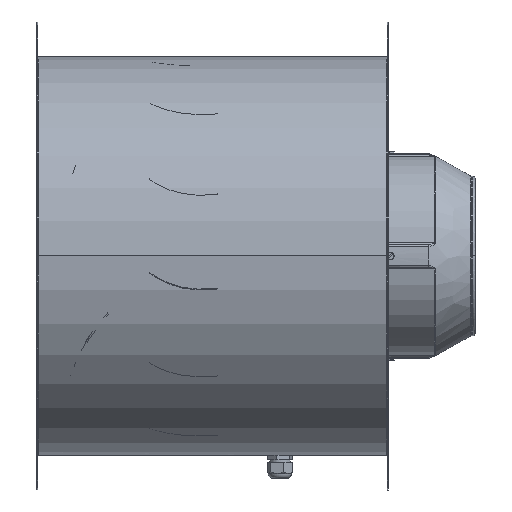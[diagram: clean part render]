
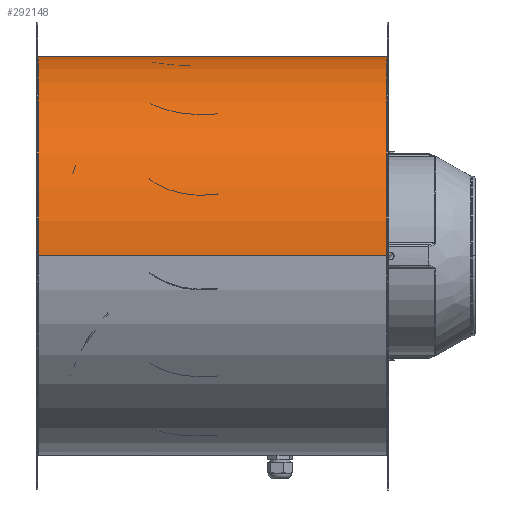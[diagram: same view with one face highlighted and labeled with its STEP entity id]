
A CAD part, top view. The second image highlights one B-rep face of the part: STEP entity #292148.
In plain terms, the highlighted cylindrical face has radius 251.25 mm (diameter 502.5 mm), a partial arc.
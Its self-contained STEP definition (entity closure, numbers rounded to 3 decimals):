
#2983 = CARTESIAN_POINT ( 'NONE',  ( 313., 0., 0. ) ) ;
#4370 = CARTESIAN_POINT ( 'NONE',  ( -125., 0., -251.25 ) ) ;
#15193 = VERTEX_POINT ( 'NONE', #224551 ) ;
#15274 = CIRCLE ( 'NONE', #168122, 251.25 ) ;
#18193 = DIRECTION ( 'NONE',  ( 1., 0., 0. ) ) ;
#23768 = LINE ( 'NONE', #72699, #100635 ) ;
#28591 = CARTESIAN_POINT ( 'NONE',  ( 313.625, 0., 0. ) ) ;
#32018 = DIRECTION ( 'NONE',  ( 0., 0., 1. ) ) ;
#34425 = ORIENTED_EDGE ( 'NONE', *, *, #297656, .F. ) ;
#34844 = CARTESIAN_POINT ( 'NONE',  ( -125., 0., 0. ) ) ;
#39453 = DIRECTION ( 'NONE',  ( 1., 0., 0. ) ) ;
#48248 = CARTESIAN_POINT ( 'NONE',  ( 313., 3., -251.232 ) ) ;
#56445 = EDGE_LOOP ( 'NONE', ( #34425, #291640, #129427, #354582, #327930, #126496, #356472, #278001, #234872, #246303 ) ) ;
#57646 = DIRECTION ( 'NONE',  ( 0., 0., 1. ) ) ;
#63897 = DIRECTION ( 'NONE',  ( 0., 0., 1. ) ) ;
#72699 = CARTESIAN_POINT ( 'NONE',  ( -125., 3.015, -251.232 ) ) ;
#84003 = FACE_OUTER_BOUND ( 'NONE', #56445, .T. ) ;
#85231 = CIRCLE ( 'NONE', #363681, 251.25 ) ;
#93902 = CIRCLE ( 'NONE', #280499, 251.25 ) ;
#94491 = CARTESIAN_POINT ( 'NONE',  ( 313., 3.015, -251.232 ) ) ;
#100635 = VECTOR ( 'NONE', #274939, 1000. ) ;
#114557 = DIRECTION ( 'NONE',  ( 1., 0., 0. ) ) ;
#118271 = EDGE_CURVE ( 'NONE', #344998, #123959, #246569, .T. ) ;
#119023 = CIRCLE ( 'NONE', #340377, 251.25 ) ;
#123959 = VERTEX_POINT ( 'NONE', #48248 ) ;
#126496 = ORIENTED_EDGE ( 'NONE', *, *, #118271, .T. ) ;
#126855 = VERTEX_POINT ( 'NONE', #185632 ) ;
#129427 = ORIENTED_EDGE ( 'NONE', *, *, #324792, .T. ) ;
#138618 = DIRECTION ( 'NONE',  ( 1., 0., 0. ) ) ;
#139378 = DIRECTION ( 'NONE',  ( 1., 0., 0. ) ) ;
#142695 = CARTESIAN_POINT ( 'NONE',  ( -125., 0., -251.25 ) ) ;
#148384 = DIRECTION ( 'NONE',  ( 1., 0., 0. ) ) ;
#151828 = CYLINDRICAL_SURFACE ( 'NONE', #200315, 251.25 ) ;
#160912 = VERTEX_POINT ( 'NONE', #294707 ) ;
#168122 = AXIS2_PLACEMENT_3D ( 'NONE', #28591, #230801, #57646 ) ;
#176079 = VERTEX_POINT ( 'NONE', #246295 ) ;
#176986 = EDGE_CURVE ( 'NONE', #343394, #196088, #23768, .T. ) ;
#185632 = CARTESIAN_POINT ( 'NONE',  ( -125., 3., -251.232 ) ) ;
#191315 = CARTESIAN_POINT ( 'NONE',  ( -125., 0., 251.25 ) ) ;
#196088 = VERTEX_POINT ( 'NONE', #94491 ) ;
#199107 = CARTESIAN_POINT ( 'NONE',  ( 313.625, 0., -251.25 ) ) ;
#200315 = AXIS2_PLACEMENT_3D ( 'NONE', #332036, #216968, #275100 ) ;
#205148 = DIRECTION ( 'NONE',  ( 1., 0., 0. ) ) ;
#213151 = CIRCLE ( 'NONE', #366811, 251.25 ) ;
#214562 = EDGE_CURVE ( 'NONE', #123959, #196088, #213151, .T. ) ;
#216968 = DIRECTION ( 'NONE',  ( 1., 0., 0. ) ) ;
#217358 = EDGE_CURVE ( 'NONE', #344998, #270848, #221820, .T. ) ;
#221820 = LINE ( 'NONE', #240437, #298773 ) ;
#224551 = CARTESIAN_POINT ( 'NONE',  ( -125.625, 0., -251.25 ) ) ;
#230801 = DIRECTION ( 'NONE',  ( 1., 0., 0. ) ) ;
#234548 = EDGE_CURVE ( 'NONE', #332066, #126855, #93902, .T. ) ;
#234872 = ORIENTED_EDGE ( 'NONE', *, *, #354787, .F. ) ;
#237055 = DIRECTION ( 'NONE',  ( 1., 0., 0. ) ) ;
#240437 = CARTESIAN_POINT ( 'NONE',  ( -125., 0., -251.25 ) ) ;
#245093 = AXIS2_PLACEMENT_3D ( 'NONE', #311856, #138618, #340943 ) ;
#246295 = CARTESIAN_POINT ( 'NONE',  ( 313.625, 0., 251.25 ) ) ;
#246303 = ORIENTED_EDGE ( 'NONE', *, *, #234548, .F. ) ;
#246569 = CIRCLE ( 'NONE', #245093, 251.25 ) ;
#264296 = VECTOR ( 'NONE', #148384, 1000. ) ;
#270848 = VERTEX_POINT ( 'NONE', #199107 ) ;
#274939 = DIRECTION ( 'NONE',  ( 1., 0., 0. ) ) ;
#275100 = DIRECTION ( 'NONE',  ( 0., 0., 1. ) ) ;
#278001 = ORIENTED_EDGE ( 'NONE', *, *, #176986, .F. ) ;
#280499 = AXIS2_PLACEMENT_3D ( 'NONE', #34844, #237055, #63897 ) ;
#287789 = CARTESIAN_POINT ( 'NONE',  ( -125., 0., 0. ) ) ;
#291640 = ORIENTED_EDGE ( 'NONE', *, *, #325367, .T. ) ;
#292148 = ADVANCED_FACE ( 'NONE', ( #84003 ), #151828, .T. ) ;
#294707 = CARTESIAN_POINT ( 'NONE',  ( -125.625, 0., 251.25 ) ) ;
#297656 = EDGE_CURVE ( 'NONE', #15193, #332066, #350329, .T. ) ;
#298773 = VECTOR ( 'NONE', #39453, 1000. ) ;
#309047 = CARTESIAN_POINT ( 'NONE',  ( -125., 3.015, -251.232 ) ) ;
#311856 = CARTESIAN_POINT ( 'NONE',  ( 313., 0., 0. ) ) ;
#312604 = CARTESIAN_POINT ( 'NONE',  ( -125.625, 0., 0. ) ) ;
#316854 = DIRECTION ( 'NONE',  ( 0., 0., 1. ) ) ;
#324792 = EDGE_CURVE ( 'NONE', #160912, #176079, #334095, .T. ) ;
#325049 = VECTOR ( 'NONE', #18193, 1000. ) ;
#325367 = EDGE_CURVE ( 'NONE', #15193, #160912, #85231, .T. ) ;
#327930 = ORIENTED_EDGE ( 'NONE', *, *, #217358, .F. ) ;
#332036 = CARTESIAN_POINT ( 'NONE',  ( -125., 0., 0. ) ) ;
#332066 = VERTEX_POINT ( 'NONE', #142695 ) ;
#334095 = LINE ( 'NONE', #191315, #325049 ) ;
#340377 = AXIS2_PLACEMENT_3D ( 'NONE', #287789, #114557, #316854 ) ;
#340943 = DIRECTION ( 'NONE',  ( 0., 0., 1. ) ) ;
#341704 = DIRECTION ( 'NONE',  ( 0., 0., 1. ) ) ;
#343394 = VERTEX_POINT ( 'NONE', #309047 ) ;
#344998 = VERTEX_POINT ( 'NONE', #353100 ) ;
#347462 = EDGE_CURVE ( 'NONE', #270848, #176079, #15274, .T. ) ;
#350329 = LINE ( 'NONE', #4370, #264296 ) ;
#353100 = CARTESIAN_POINT ( 'NONE',  ( 313., 0., -251.25 ) ) ;
#354582 = ORIENTED_EDGE ( 'NONE', *, *, #347462, .F. ) ;
#354787 = EDGE_CURVE ( 'NONE', #126855, #343394, #119023, .T. ) ;
#356472 = ORIENTED_EDGE ( 'NONE', *, *, #214562, .T. ) ;
#363681 = AXIS2_PLACEMENT_3D ( 'NONE', #312604, #139378, #341704 ) ;
#366811 = AXIS2_PLACEMENT_3D ( 'NONE', #2983, #205148, #32018 ) ;
